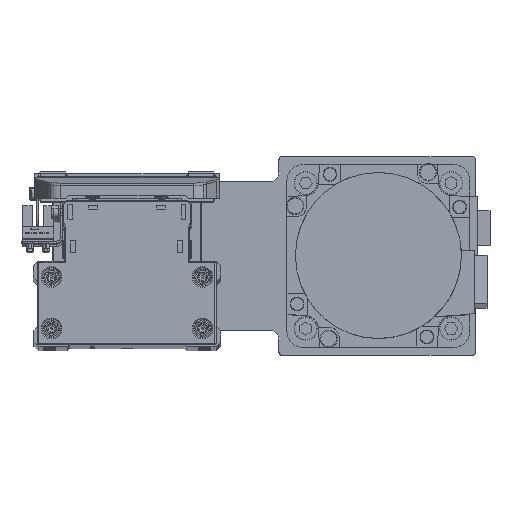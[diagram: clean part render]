
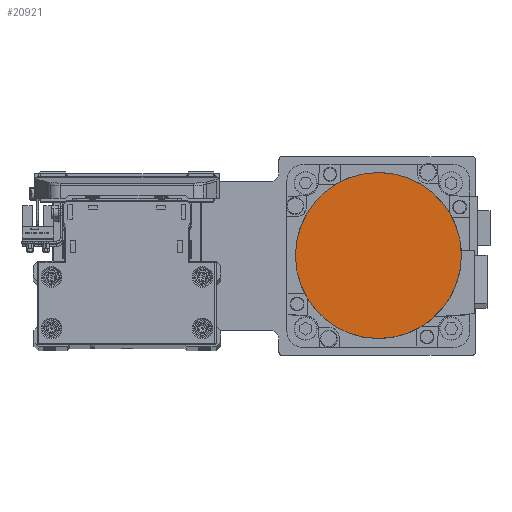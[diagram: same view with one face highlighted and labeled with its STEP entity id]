
A CAD part, top view. The second image highlights one B-rep face of the part: STEP entity #20921.
In plain terms, the highlighted planar face has unit normal (0, 0, 1) as drawn and (0, 0, -1) by its records, which use the part's own axes.
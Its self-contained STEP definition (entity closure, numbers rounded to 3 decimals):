
#1477 = DIRECTION ( 'NONE',  ( 0., 0., 1. ) ) ;
#1542 = CARTESIAN_POINT ( 'NONE',  ( 0., 0., -122.2 ) ) ;
#8019 = DIRECTION ( 'NONE',  ( 0., 0., 1. ) ) ;
#10154 = AXIS2_PLACEMENT_3D ( 'NONE', #29184, #1477, #13809 ) ;
#10992 = VERTEX_POINT ( 'NONE', #14961 ) ;
#13809 = DIRECTION ( 'NONE',  ( 0., -1., 0. ) ) ;
#13874 = DIRECTION ( 'NONE',  ( 0., 0., 1. ) ) ;
#14961 = CARTESIAN_POINT ( 'NONE',  ( 0., -36.3, -122.2 ) ) ;
#16911 = FACE_OUTER_BOUND ( 'NONE', #35241, .T. ) ;
#17803 = AXIS2_PLACEMENT_3D ( 'NONE', #35719, #8019, #20352 ) ;
#19776 = CARTESIAN_POINT ( 'NONE',  ( 0., 36.3, -122.2 ) ) ;
#20260 = AXIS2_PLACEMENT_3D ( 'NONE', #1542, #13874, #26207 ) ;
#20352 = DIRECTION ( 'NONE',  ( 0., 1., 0. ) ) ;
#20921 = ADVANCED_FACE ( 'NONE', ( #16911 ), #29244, .F. ) ;
#23911 = ORIENTED_EDGE ( 'NONE', *, *, #25599, .F. ) ;
#25599 = EDGE_CURVE ( 'NONE', #39503, #10992, #35246, .T. ) ;
#26207 = DIRECTION ( 'NONE',  ( 1., 0., 0. ) ) ;
#27591 = CIRCLE ( 'NONE', #10154, 36.3 ) ;
#27661 = ORIENTED_EDGE ( 'NONE', *, *, #28062, .F. ) ;
#28062 = EDGE_CURVE ( 'NONE', #10992, #39503, #27591, .T. ) ;
#29184 = CARTESIAN_POINT ( 'NONE',  ( 0., 0., -122.2 ) ) ;
#29244 = PLANE ( 'NONE',  #20260 ) ;
#35241 = EDGE_LOOP ( 'NONE', ( #23911, #27661 ) ) ;
#35246 = CIRCLE ( 'NONE', #17803, 36.3 ) ;
#35719 = CARTESIAN_POINT ( 'NONE',  ( 0., 0., -122.2 ) ) ;
#39503 = VERTEX_POINT ( 'NONE', #19776 ) ;
